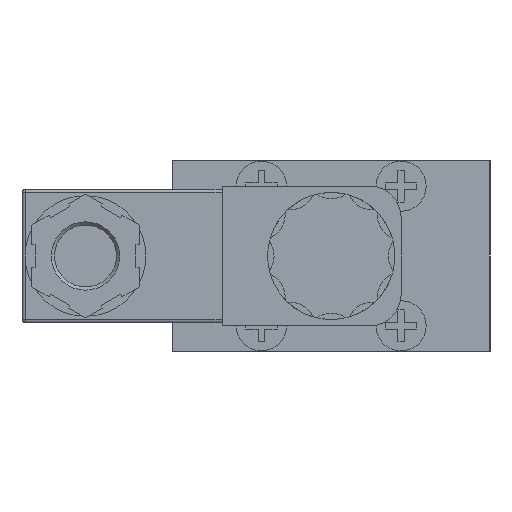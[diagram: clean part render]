
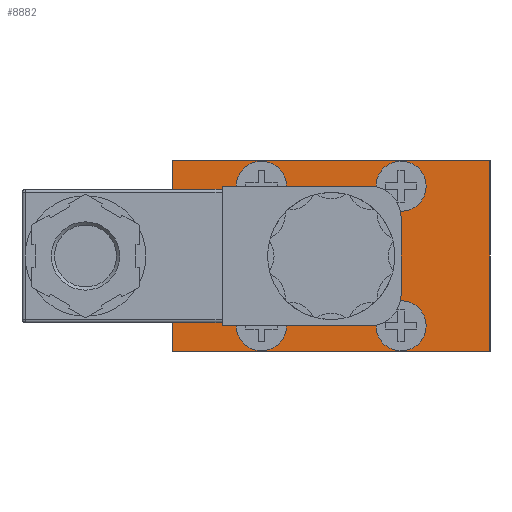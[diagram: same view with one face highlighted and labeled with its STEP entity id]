
A CAD part, left-side view. The second image highlights one B-rep face of the part: STEP entity #8882.
In plain terms, the highlighted planar face has unit normal (-1, 0, 0).
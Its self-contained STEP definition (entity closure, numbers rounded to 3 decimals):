
#396=CIRCLE('',#9368,8.);
#406=CIRCLE('',#9445,3.95);
#407=CIRCLE('',#9447,3.95);
#408=CIRCLE('',#9452,3.95);
#409=CIRCLE('',#9454,3.95);
#1978=ORIENTED_EDGE('',*,*,#2664,.F.);
#1979=ORIENTED_EDGE('',*,*,#2837,.T.);
#1980=ORIENTED_EDGE('',*,*,#2836,.T.);
#1981=ORIENTED_EDGE('',*,*,#2574,.T.);
#1982=ORIENTED_EDGE('',*,*,#2835,.T.);
#1983=ORIENTED_EDGE('',*,*,#2833,.T.);
#1984=ORIENTED_EDGE('',*,*,#2831,.T.);
#1985=ORIENTED_EDGE('',*,*,#2830,.T.);
#1986=ORIENTED_EDGE('',*,*,#2829,.T.);
#2574=EDGE_CURVE('',#3249,#3248,#3818,.T.);
#2664=EDGE_CURVE('',#3314,#3314,#396,.T.);
#2829=EDGE_CURVE('',#3426,#3426,#406,.T.);
#2830=EDGE_CURVE('',#3427,#3427,#407,.T.);
#2831=EDGE_CURVE('',#3428,#3249,#4004,.T.);
#2833=EDGE_CURVE('',#3429,#3428,#4006,.T.);
#2835=EDGE_CURVE('',#3248,#3429,#4008,.T.);
#2836=EDGE_CURVE('',#3430,#3430,#408,.T.);
#2837=EDGE_CURVE('',#3431,#3431,#409,.T.);
#3248=VERTEX_POINT('',#13288);
#3249=VERTEX_POINT('',#13290);
#3314=VERTEX_POINT('',#13521);
#3426=VERTEX_POINT('',#13865);
#3427=VERTEX_POINT('',#13868);
#3428=VERTEX_POINT('',#13871);
#3429=VERTEX_POINT('',#13875);
#3430=VERTEX_POINT('',#13881);
#3431=VERTEX_POINT('',#13884);
#3818=LINE('',#13289,#4386);
#4004=LINE('',#13870,#4572);
#4006=LINE('',#13874,#4574);
#4008=LINE('',#13878,#4576);
#4386=VECTOR('',#10560,1000.);
#4572=VECTOR('',#11086,1000.);
#4574=VECTOR('',#11090,1000.);
#4576=VECTOR('',#11094,1000.);
#5086=EDGE_LOOP('',(#1978));
#5087=EDGE_LOOP('',(#1979));
#5088=EDGE_LOOP('',(#1980));
#5089=EDGE_LOOP('',(#1981,#1982,#1983,#1984));
#5090=EDGE_LOOP('',(#1985));
#5091=EDGE_LOOP('',(#1986));
#5634=FACE_BOUND('',#5086,.T.);
#5635=FACE_BOUND('',#5087,.T.);
#5636=FACE_BOUND('',#5088,.T.);
#5637=FACE_BOUND('',#5089,.T.);
#5638=FACE_BOUND('',#5090,.T.);
#5639=FACE_BOUND('',#5091,.T.);
#5908=PLANE('',#9455);
#8882=ADVANCED_FACE('',(#5634,#5635,#5636,#5637,#5638,#5639),#5908,.T.);
#9368=AXIS2_PLACEMENT_3D('',#13520,#10769,#10770);
#9445=AXIS2_PLACEMENT_3D('',#13864,#11078,#11079);
#9447=AXIS2_PLACEMENT_3D('',#13867,#11082,#11083);
#9452=AXIS2_PLACEMENT_3D('',#13880,#11097,#11098);
#9454=AXIS2_PLACEMENT_3D('',#13883,#11101,#11102);
#9455=AXIS2_PLACEMENT_3D('',#13885,#11103,#11104);
#10560=DIRECTION('',(0.,0.,-1.));
#10769=DIRECTION('',(-1.,0.,0.));
#10770=DIRECTION('',(0.,-1.,0.));
#11078=DIRECTION('',(1.,0.,0.));
#11079=DIRECTION('',(0.,0.,1.));
#11082=DIRECTION('',(1.,0.,0.));
#11083=DIRECTION('',(0.,0.,1.));
#11086=DIRECTION('',(0.,1.,0.));
#11090=DIRECTION('',(0.,0.,1.));
#11094=DIRECTION('',(0.,-1.,0.));
#11097=DIRECTION('',(1.,0.,0.));
#11098=DIRECTION('',(0.,0.,1.));
#11101=DIRECTION('',(1.,0.,0.));
#11102=DIRECTION('',(0.,0.,1.));
#11103=DIRECTION('',(-1.,0.,0.));
#11104=DIRECTION('',(0.,-1.,0.));
#13288=CARTESIAN_POINT('',(-82.,25.,-15.));
#13289=CARTESIAN_POINT('',(-82.,25.,11.));
#13290=CARTESIAN_POINT('',(-82.,25.,15.));
#13520=CARTESIAN_POINT('',(-82.,0.,0.));
#13521=CARTESIAN_POINT('',(-82.,-8.,0.));
#13864=CARTESIAN_POINT('',(-82.,11.,11.));
#13865=CARTESIAN_POINT('',(-82.,11.,14.95));
#13867=CARTESIAN_POINT('',(-82.,11.,-11.));
#13868=CARTESIAN_POINT('',(-82.,11.,-7.05));
#13870=CARTESIAN_POINT('',(-82.,-18.,15.));
#13871=CARTESIAN_POINT('',(-82.,-25.,15.));
#13874=CARTESIAN_POINT('',(-82.,-25.,-11.));
#13875=CARTESIAN_POINT('',(-82.,-25.,-15.));
#13878=CARTESIAN_POINT('',(-82.,18.,-15.));
#13880=CARTESIAN_POINT('',(-82.,-11.,-11.));
#13881=CARTESIAN_POINT('',(-82.,-11.,-7.05));
#13883=CARTESIAN_POINT('',(-82.,-11.,11.));
#13884=CARTESIAN_POINT('',(-82.,-11.,14.95));
#13885=CARTESIAN_POINT('',(-82.,18.,-11.));
